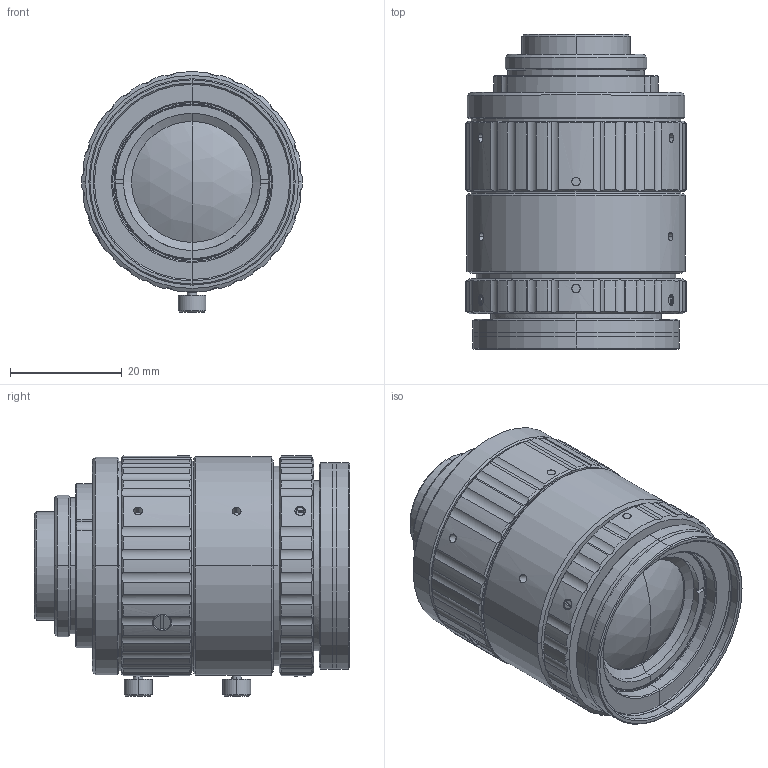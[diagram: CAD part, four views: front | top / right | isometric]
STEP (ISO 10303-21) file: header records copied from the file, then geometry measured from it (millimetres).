
FILE_DESCRIPTION (( 'STEP AP214' ), '1' );
FILE_NAME ('3D-drawing of V1624-MPZ_20190820.STEP', '2019-08-20T08:54:18', ( '' ), ( '' ), 'SwSTEP 2.0', 'SolidWorks 2013', '' );
FILE_SCHEMA (( 'AUTOMOTIVE_DESIGN' ));
Length unit declared in the file: millimetre
Products named in the file (3): V1624-MPZ_Mechnical limit_20190820; V1624-MPZ_Infinity_20190820; 3D-drawing of V1624-MPZ_20190820
Assembly tree (2 placements, depth 2):
  3D-drawing of V1624-MPZ_20190820
    V1624-MPZ_Infinity_20190820
    V1624-MPZ_Mechnical limit_20190820
Bounding box: 39.5 x 56.48 x 43.11 mm (x, y, z)
Surface area: 22493.8 mm2
Topology: 2 solids, 10 shells, 938 faces, 2366 edges, 1514 vertices
Faces by surface type: cylinder 432, plane 268, cone 210, torus 12, bspline 12, sphere 4
Entity records: 35694 total; most frequent: CARTESIAN_POINT 9363, ORIENTED_EDGE 4724, DIRECTION 4518, EDGE_CURVE 2362, AXIS2_PLACEMENT_3D 1699, VERTEX_POINT 1514, LINE 1120, VECTOR 1120
